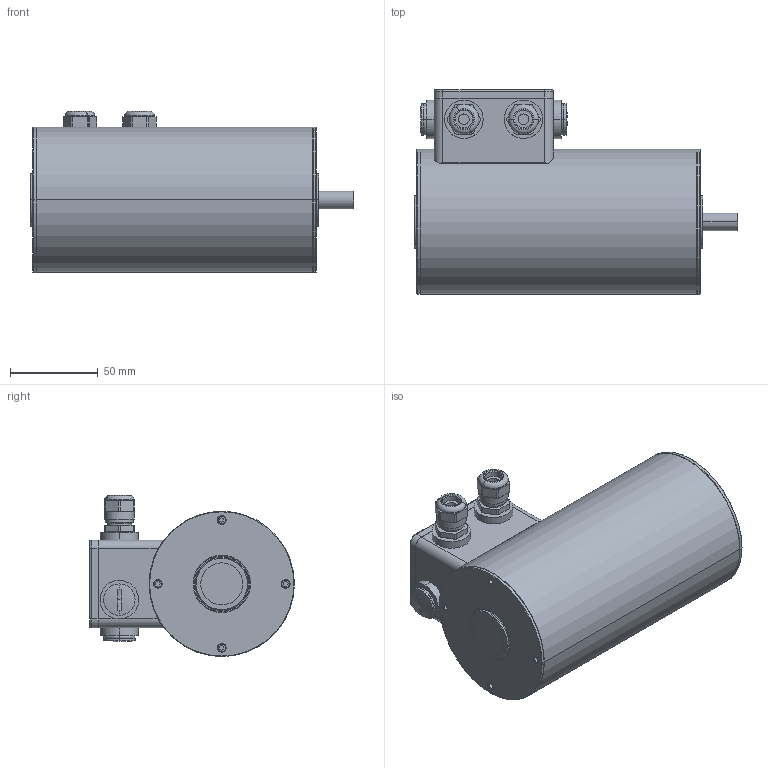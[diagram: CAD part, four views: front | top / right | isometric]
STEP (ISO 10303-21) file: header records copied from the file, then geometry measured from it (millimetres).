
FILE_DESCRIPTION (( 'STEP AP214' ), '1' );
FILE_NAME ('MQC887_K4M.STEP', '2016-04-15T10:25:08', ( 'admin' ), ( '' ), 'SwSTEP 2.0', 'SolidWorks 2015', '' );
FILE_SCHEMA (( 'AUTOMOTIVE_DESIGN' ));
Length unit declared in the file: millimetre
Products named in the file (5): 937702020; 937201981; K4M_BG_8; MQC887 vereinfacht; MQC887_K4M
Assembly tree (7 placements, depth 2):
  MQC887_K4M
    MQC887 vereinfacht
    K4M_BG_8
    937201981  x3
    937702020  x2
Bounding box: 185 x 117 x 92 mm (x, y, z)
Volume: 1015390.5 mm3; surface area: 83527.1 mm2
Topology: 7 solids, 7 shells, 524 faces, 1163 edges, 713 vertices
Faces by surface type: plane 213, cylinder 181, cone 86, torus 40, sphere 4
Entity records: 12151 total; most frequent: DIRECTION 2081, CARTESIAN_POINT 2057, ORIENTED_EDGE 1758, EDGE_CURVE 879, AXIS2_PLACEMENT_3D 813, VERTEX_POINT 541, LINE 455, VECTOR 455
